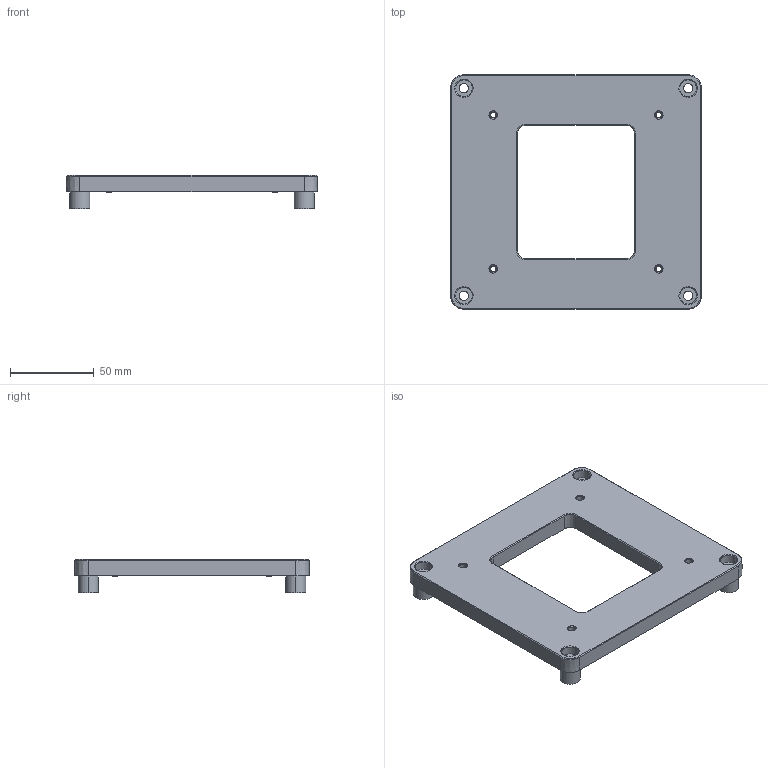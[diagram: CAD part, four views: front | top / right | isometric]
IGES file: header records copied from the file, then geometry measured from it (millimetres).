
Start section: Cimatron Iges convertor
Global section: file name: G:\k-box\cimatron\distenzplatten_neu\distanzplatte_gr3.igs; native system: prt/Cimatron V13.10; preprocessor: Cimatron IGES (V5.3) Convertor V5.0.6.0; author: NONE; organization: NONE; date: 060911.113700; units: millimetre
Bounding box: 150 x 140 x 20 mm (x, y, z)
Surface area: 48980.3 mm2 (no closed solid volume)
Topology: 0 solids, 0 shells, 172 faces, 776 edges, 768 vertices
Faces by surface type: bspline 114, revolution 50, extrusion 8
